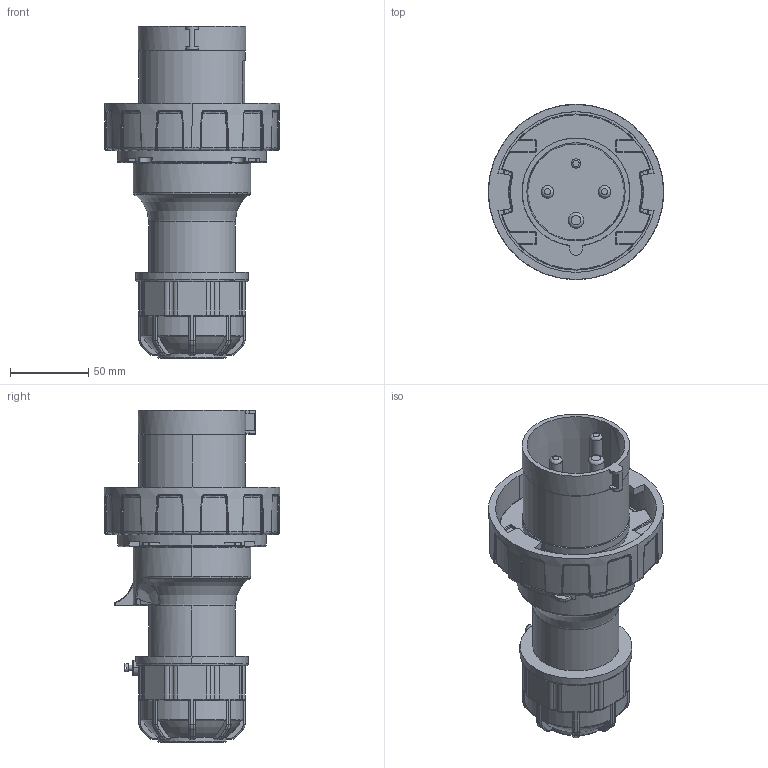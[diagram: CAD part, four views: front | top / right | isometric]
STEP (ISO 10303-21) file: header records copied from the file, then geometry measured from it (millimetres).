
FILE_DESCRIPTION(('FreeCAD Model'),'2;1');
FILE_NAME('Open CASCADE Shape Model','2026-02-04T09:46:06',(''),(''), 'Open CASCADE STEP processor 7.8','FreeCAD','Unknown');
FILE_SCHEMA(('AUTOMOTIVE_DESIGN { 1 0 10303 214 1 1 1 1 }'));
Length unit declared in the file: millimetre
Products named in the file (10): TL3P63632; Estrutura corpo; Tomada; Pino Neutro; Pino Terra; Pino L1; Pino guia; Encaixe tomada; Prensa cabo; Parafuro prensa cabo
Assembly tree (9 placements, depth 2):
  TL3P63632
    Estrutura corpo
    Tomada
    Pino Neutro
    Pino Terra
    Pino L1
    Pino guia
    Encaixe tomada
    Prensa cabo
    Parafuro prensa cabo
Bounding box: 112.2 x 112.2 x 212.7 mm (x, y, z)
Volume: 375803.1 mm3; surface area: 167546.3 mm2
Topology: 9 solids, 10 shells, 1203 faces, 3010 edges, 1834 vertices
Faces by surface type: cylinder 420, plane 336, bspline 216, torus 171, cone 38, sphere 20, extrusion 2
Full cylindrical faces by diameter (mm): 3.5 x1, 5.3 x1, 6 x1, 8 x2, 10 x1, 11.5 x2, 14.5 x1, 74 x1
Entity records: 47720 total; most frequent: CARTESIAN_POINT 20744, ORIENTED_EDGE 5972, DIRECTION 5169, EDGE_CURVE 2986, AXIS2_PLACEMENT_3D 2109, VERTEX_POINT 1834, FACE_BOUND 1238, EDGE_LOOP 1238
